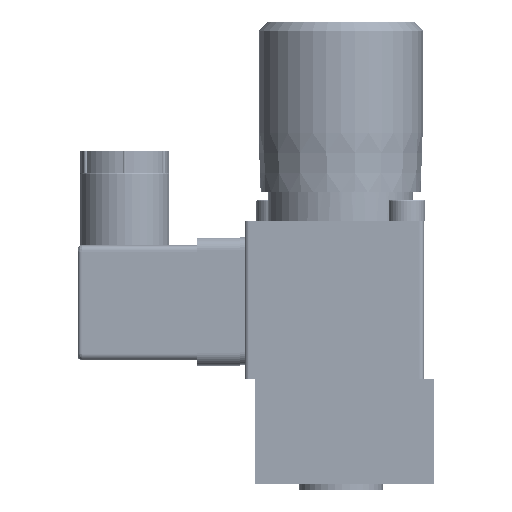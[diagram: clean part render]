
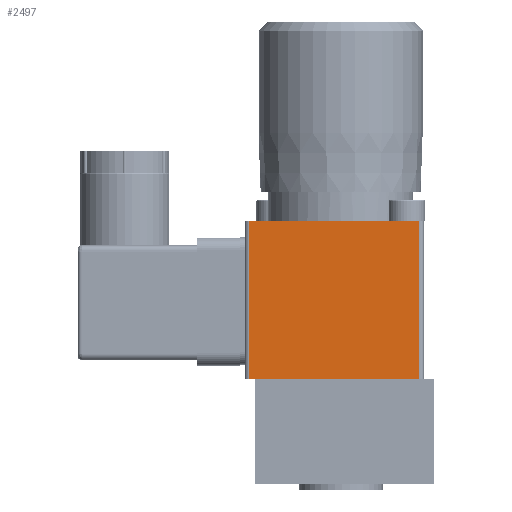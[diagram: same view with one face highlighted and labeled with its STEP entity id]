
A CAD part, front view. The second image highlights one B-rep face of the part: STEP entity #2497.
In plain terms, the highlighted planar face has unit normal (0, -1, 0).
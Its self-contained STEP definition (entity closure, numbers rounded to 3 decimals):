
#480=LINE('',#31666,#1098);
#483=LINE('',#31686,#1101);
#496=LINE('',#31742,#1114);
#497=LINE('',#31743,#1115);
#1098=VECTOR('',#9801,1.);
#1101=VECTOR('',#9820,1.);
#1114=VECTOR('',#9871,1.);
#1115=VECTOR('',#9872,1.);
#1825=FACE_OUTER_BOUND('',#3476,.T.);
#2156=PLANE('',#8481);
#2497=ADVANCED_FACE('',(#1825),#2156,.T.);
#3476=EDGE_LOOP('',(#4759,#4760,#4761,#4762));
#4759=ORIENTED_EDGE('',*,*,#7204,.F.);
#4760=ORIENTED_EDGE('',*,*,#7241,.F.);
#4761=ORIENTED_EDGE('',*,*,#7214,.T.);
#4762=ORIENTED_EDGE('',*,*,#7242,.T.);
#6324=VERTEX_POINT('',#31667);
#6325=VERTEX_POINT('',#31668);
#6333=VERTEX_POINT('',#31687);
#6334=VERTEX_POINT('',#31688);
#7204=EDGE_CURVE('',#6324,#6325,#480,.T.);
#7214=EDGE_CURVE('',#6333,#6334,#483,.T.);
#7241=EDGE_CURVE('',#6333,#6324,#496,.T.);
#7242=EDGE_CURVE('',#6334,#6325,#497,.T.);
#8481=AXIS2_PLACEMENT_3D('',#31744,#9873,#9874);
#9801=DIRECTION('',(-1.,0.,0.));
#9820=DIRECTION('',(-1.,0.,0.));
#9871=DIRECTION('',(0.,0.,-1.));
#9872=DIRECTION('',(0.,0.,-1.));
#9873=DIRECTION('',(0.,-1.,0.));
#9874=DIRECTION('',(0.,0.,1.));
#31666=CARTESIAN_POINT('',(38.5,1.5,24.5));
#31667=CARTESIAN_POINT('',(38.5,1.5,24.5));
#31668=CARTESIAN_POINT('',(-1.5,1.5,24.5));
#31686=CARTESIAN_POINT('',(38.5,1.5,61.5));
#31687=CARTESIAN_POINT('',(38.5,1.5,61.5));
#31688=CARTESIAN_POINT('',(-1.5,1.5,61.5));
#31742=CARTESIAN_POINT('',(38.5,1.5,61.5));
#31743=CARTESIAN_POINT('',(-1.5,1.5,61.5));
#31744=CARTESIAN_POINT('',(38.5,1.5,61.5));
